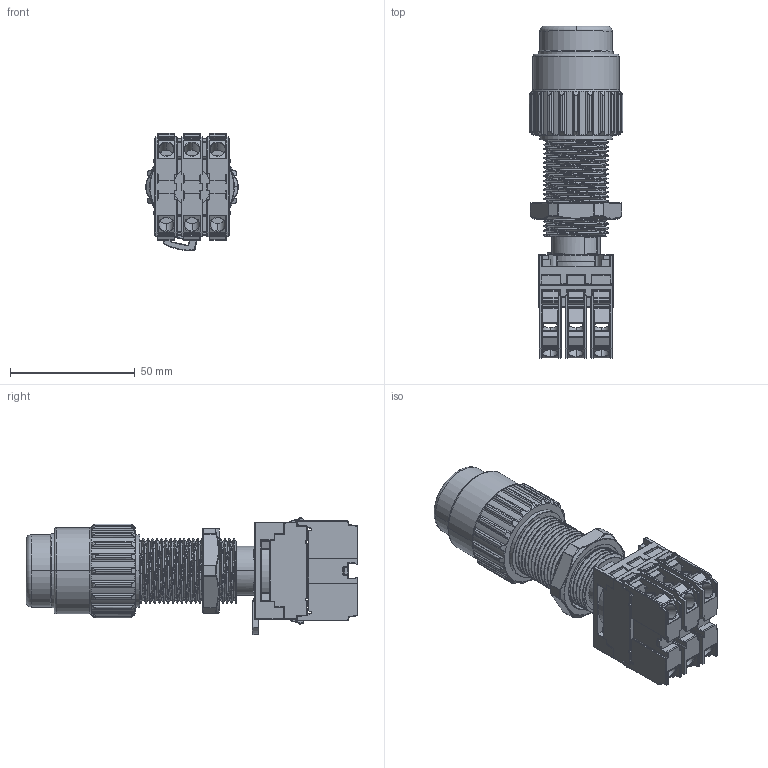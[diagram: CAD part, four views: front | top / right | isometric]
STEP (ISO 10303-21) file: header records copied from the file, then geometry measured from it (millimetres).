
FILE_DESCRIPTION (( 'STEP AP203' ), '1' );
FILE_NAME ('EPCS-LPB-MS-G-XL-24V-NO.STEP', '2025-04-04T18:49:35', ( '' ), ( '' ), 'SwSTEP 2.0', 'SolidWorks 2020', '' );
FILE_SCHEMA (( 'CONFIG_CONTROL_DESIGN' ));
Length unit declared in the file: inch
Products named in the file (1): EPCS-LPB-MS-G-XL-24V-NO
Bounding box: 37.5 x 133.1 x 46.94 mm (x, y, z)
Surface area: 35841.3 mm2 (no closed solid volume)
Topology: 0 solids, 14 shells, 2053 faces, 6655 edges, 4322 vertices
Faces by surface type: cylinder 1339, plane 397, torus 201, bspline 74, sphere 31, cone 11
Entity records: 96446 total; most frequent: CARTESIAN_POINT 42479, ORIENTED_EDGE 10949, DIRECTION 10938, EDGE_CURVE 6628, VERTEX_POINT 4311, AXIS2_PLACEMENT_3D 3988, VECTOR 2962, LINE 2962
